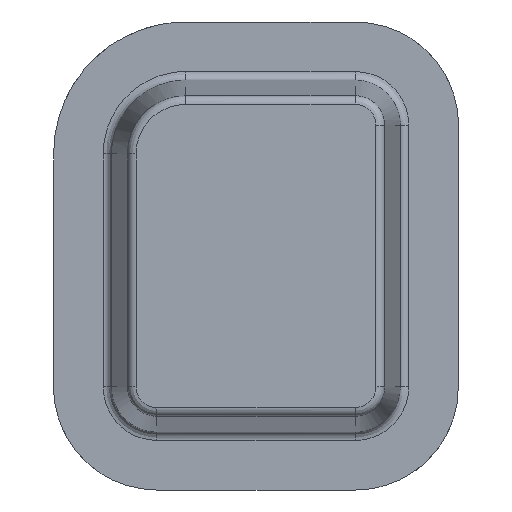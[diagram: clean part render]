
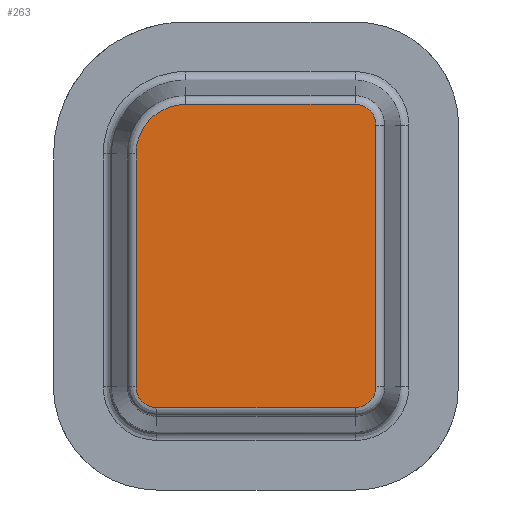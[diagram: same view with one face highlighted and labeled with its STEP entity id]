
A CAD part, front view. The second image highlights one B-rep face of the part: STEP entity #263.
In plain terms, the highlighted planar face has unit normal (0, -1, 0).
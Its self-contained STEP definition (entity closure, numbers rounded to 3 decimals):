
#144=CARTESIAN_POINT('Axis2P3D Location',(45.58,0.,54.42)) ;
#149=CARTESIAN_POINT('Line Origine',(2.749,0.,50.5)) ;
#153=CARTESIAN_POINT('Vertex',(2.749,0.,91.)) ;
#155=CARTESIAN_POINT('Vertex',(2.749,0.,10.)) ;
#159=CARTESIAN_POINT('Control Point',(2.749,0.,10.)) ;
#160=CARTESIAN_POINT('Control Point',(2.749,0.,9.038)) ;
#161=CARTESIAN_POINT('Control Point',(2.908,0.,8.077)) ;
#162=CARTESIAN_POINT('Control Point',(3.227,0.,7.152)) ;
#163=CARTESIAN_POINT('Control Point',(4.157,0.,5.443)) ;
#164=CARTESIAN_POINT('Control Point',(5.589,0.,4.124)) ;
#165=CARTESIAN_POINT('Control Point',(6.408,0.,3.59)) ;
#166=CARTESIAN_POINT('Control Point',(7.599,0.,3.072)) ;
#167=CARTESIAN_POINT('Control Point',(8.86,0.,2.828)) ;
#168=CARTESIAN_POINT('Control Point',(9.179,0.,2.785)) ;
#169=CARTESIAN_POINT('Control Point',(9.535,0.,2.756)) ;
#170=CARTESIAN_POINT('Control Point',(9.892,0.,2.75)) ;
#171=CARTESIAN_POINT('Control Point',(9.928,0.,2.749)) ;
#172=CARTESIAN_POINT('Control Point',(9.964,0.,2.749)) ;
#173=CARTESIAN_POINT('Control Point',(10.,0.,2.749)) ;
#174=CARTESIAN_POINT('Vertex',(10.,0.,2.749)) ;
#177=CARTESIAN_POINT('Line Origine',(44.5,0.,2.749)) ;
#181=CARTESIAN_POINT('Vertex',(79.,0.,2.749)) ;
#185=CARTESIAN_POINT('Control Point',(79.,0.,2.749)) ;
#186=CARTESIAN_POINT('Control Point',(79.962,0.,2.749)) ;
#187=CARTESIAN_POINT('Control Point',(80.923,0.,2.908)) ;
#188=CARTESIAN_POINT('Control Point',(81.848,0.,3.227)) ;
#189=CARTESIAN_POINT('Control Point',(83.557,0.,4.157)) ;
#190=CARTESIAN_POINT('Control Point',(84.876,0.,5.589)) ;
#191=CARTESIAN_POINT('Control Point',(85.41,0.,6.408)) ;
#192=CARTESIAN_POINT('Control Point',(85.928,0.,7.599)) ;
#193=CARTESIAN_POINT('Control Point',(86.172,0.,8.86)) ;
#194=CARTESIAN_POINT('Control Point',(86.215,0.,9.179)) ;
#195=CARTESIAN_POINT('Control Point',(86.244,0.,9.535)) ;
#196=CARTESIAN_POINT('Control Point',(86.25,0.,9.892)) ;
#197=CARTESIAN_POINT('Control Point',(86.251,0.,9.928)) ;
#198=CARTESIAN_POINT('Control Point',(86.251,0.,9.964)) ;
#199=CARTESIAN_POINT('Control Point',(86.251,0.,10.)) ;
#200=CARTESIAN_POINT('Vertex',(86.251,0.,10.)) ;
#203=CARTESIAN_POINT('Line Origine',(86.251,0.,55.5)) ;
#207=CARTESIAN_POINT('Vertex',(86.251,0.,101.)) ;
#211=CARTESIAN_POINT('Control Point',(86.251,0.,101.)) ;
#212=CARTESIAN_POINT('Control Point',(86.251,0.,101.961)) ;
#213=CARTESIAN_POINT('Control Point',(86.092,0.,102.923)) ;
#214=CARTESIAN_POINT('Control Point',(85.773,0.,103.848)) ;
#215=CARTESIAN_POINT('Control Point',(84.843,0.,105.557)) ;
#216=CARTESIAN_POINT('Control Point',(83.411,0.,106.876)) ;
#217=CARTESIAN_POINT('Control Point',(82.592,0.,107.41)) ;
#218=CARTESIAN_POINT('Control Point',(81.401,0.,107.928)) ;
#219=CARTESIAN_POINT('Control Point',(80.14,0.,108.172)) ;
#220=CARTESIAN_POINT('Control Point',(79.821,0.,108.215)) ;
#221=CARTESIAN_POINT('Control Point',(79.465,0.,108.244)) ;
#222=CARTESIAN_POINT('Control Point',(79.108,0.,108.25)) ;
#223=CARTESIAN_POINT('Control Point',(79.072,0.,108.251)) ;
#224=CARTESIAN_POINT('Control Point',(79.036,0.,108.251)) ;
#225=CARTESIAN_POINT('Control Point',(79.,0.,108.251)) ;
#226=CARTESIAN_POINT('Vertex',(79.,0.,108.251)) ;
#229=CARTESIAN_POINT('Line Origine',(49.5,0.,108.251)) ;
#233=CARTESIAN_POINT('Vertex',(20.,0.,108.251)) ;
#237=CARTESIAN_POINT('Control Point',(20.,0.,108.251)) ;
#238=CARTESIAN_POINT('Control Point',(18.077,0.,108.251)) ;
#239=CARTESIAN_POINT('Control Point',(16.154,0.,107.983)) ;
#240=CARTESIAN_POINT('Control Point',(14.282,0.,107.447)) ;
#241=CARTESIAN_POINT('Control Point',(10.736,0.,105.869)) ;
#242=CARTESIAN_POINT('Control Point',(7.757,0.,103.383)) ;
#243=CARTESIAN_POINT('Control Point',(6.451,0.,101.938)) ;
#244=CARTESIAN_POINT('Control Point',(4.493,0.,99.045)) ;
#245=CARTESIAN_POINT('Control Point',(3.313,0.,95.768)) ;
#246=CARTESIAN_POINT('Control Point',(2.954,0.,94.258)) ;
#247=CARTESIAN_POINT('Control Point',(2.762,0.,92.685)) ;
#248=CARTESIAN_POINT('Control Point',(2.749,0.,91.109)) ;
#249=CARTESIAN_POINT('Control Point',(2.749,0.,91.073)) ;
#250=CARTESIAN_POINT('Control Point',(2.749,0.,91.036)) ;
#251=CARTESIAN_POINT('Control Point',(2.749,0.,91.)) ;
#145=DIRECTION('Axis2P3D Direction',(0.,-1.,0.)) ;
#146=DIRECTION('Axis2P3D XDirection',(0.124,0.,0.992)) ;
#150=DIRECTION('Vector Direction',(0.,0.,1.)) ;
#178=DIRECTION('Vector Direction',(1.,0.,0.)) ;
#204=DIRECTION('Vector Direction',(0.,0.,1.)) ;
#230=DIRECTION('Vector Direction',(-1.,0.,0.)) ;
#147=AXIS2_PLACEMENT_3D('Plane Axis2P3D',#144,#145,#146) ;
#254=ORIENTED_EDGE('',*,*,#157,.T.) ;
#255=ORIENTED_EDGE('',*,*,#176,.T.) ;
#256=ORIENTED_EDGE('',*,*,#183,.T.) ;
#257=ORIENTED_EDGE('',*,*,#202,.T.) ;
#258=ORIENTED_EDGE('',*,*,#209,.T.) ;
#259=ORIENTED_EDGE('',*,*,#228,.T.) ;
#260=ORIENTED_EDGE('',*,*,#235,.T.) ;
#261=ORIENTED_EDGE('',*,*,#252,.T.) ;
#151=VECTOR('Line Direction',#150,1.) ;
#179=VECTOR('Line Direction',#178,1.) ;
#205=VECTOR('Line Direction',#204,1.) ;
#231=VECTOR('Line Direction',#230,1.) ;
#263=ADVANCED_FACE('base',(#262),#148,.T.) ;
#158=B_SPLINE_CURVE_WITH_KNOTS('',5,(#159,#160,#161,#162,#163,#164,#165,#166,#167,#168,#169,#170,#171,#172,#173),.UNSPECIFIED.,.F.,.U.,(6,3,3,3,6),(27.376,37.418,47.465,50.814,51.191),.UNSPECIFIED.) ;
#184=B_SPLINE_CURVE_WITH_KNOTS('',5,(#185,#186,#187,#188,#189,#190,#191,#192,#193,#194,#195,#196,#197,#198,#199),.UNSPECIFIED.,.F.,.U.,(6,3,3,3,6),(27.376,37.418,47.465,50.814,51.191),.UNSPECIFIED.) ;
#210=B_SPLINE_CURVE_WITH_KNOTS('',5,(#211,#212,#213,#214,#215,#216,#217,#218,#219,#220,#221,#222,#223,#224,#225),.UNSPECIFIED.,.F.,.U.,(6,3,3,3,6),(27.375,37.417,47.465,50.813,51.191),.UNSPECIFIED.) ;
#236=B_SPLINE_CURVE_WITH_KNOTS('',5,(#237,#238,#239,#240,#241,#242,#243,#244,#245,#246,#247,#248,#249,#250,#251),.UNSPECIFIED.,.F.,.U.,(6,3,3,3,6),(39.429,55.523,71.636,84.519,84.823),.UNSPECIFIED.) ;
#157=EDGE_CURVE('',#154,#156,#152,.F.) ;
#176=EDGE_CURVE('',#156,#175,#158,.T.) ;
#183=EDGE_CURVE('',#175,#182,#180,.T.) ;
#202=EDGE_CURVE('',#182,#201,#184,.T.) ;
#209=EDGE_CURVE('',#201,#208,#206,.T.) ;
#228=EDGE_CURVE('',#208,#227,#210,.T.) ;
#235=EDGE_CURVE('',#227,#234,#232,.T.) ;
#252=EDGE_CURVE('',#234,#154,#236,.T.) ;
#253=EDGE_LOOP('',(#254,#255,#256,#257,#258,#259,#260,#261)) ;
#262=FACE_OUTER_BOUND('',#253,.T.) ;
#152=LINE('Line',#149,#151) ;
#180=LINE('Line',#177,#179) ;
#206=LINE('Line',#203,#205) ;
#232=LINE('Line',#229,#231) ;
#148=PLANE('',#147) ;
#154=VERTEX_POINT('',#153) ;
#156=VERTEX_POINT('',#155) ;
#175=VERTEX_POINT('',#174) ;
#182=VERTEX_POINT('',#181) ;
#201=VERTEX_POINT('',#200) ;
#208=VERTEX_POINT('',#207) ;
#227=VERTEX_POINT('',#226) ;
#234=VERTEX_POINT('',#233) ;
